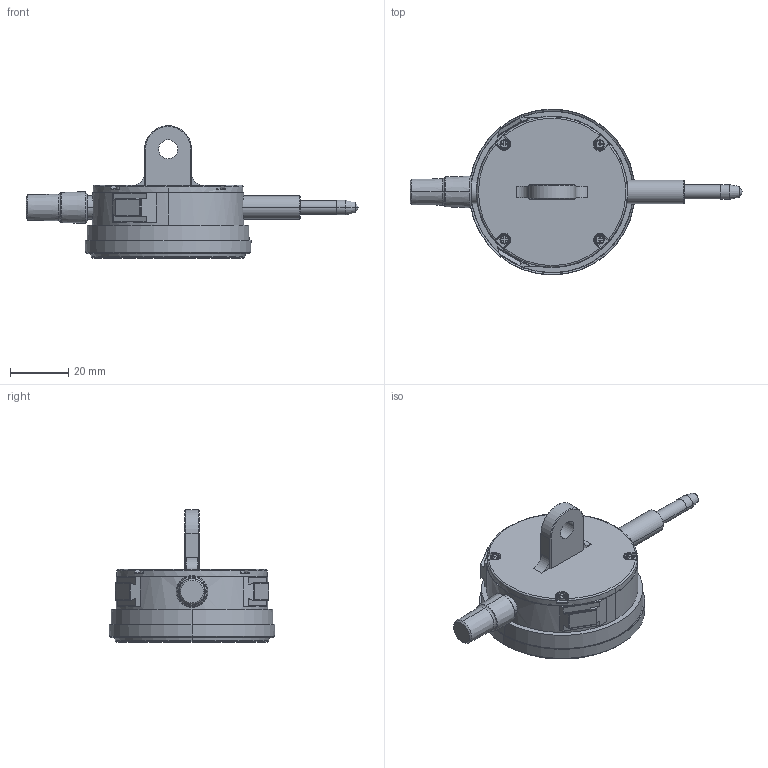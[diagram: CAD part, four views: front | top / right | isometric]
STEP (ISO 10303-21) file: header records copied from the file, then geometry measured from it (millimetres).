
FILE_DESCRIPTION(('Creo Elements/Direct Modeling STEP Export'),'2;1');
FILE_NAME('2310S-10.stp','2020-03-23T10:50:46',(''),(''),'Creo Elements/Direct Modeling STEP processor for AP214 (Solid Model)','Creo Elements/Direct Modeling 18.1I 13-Aug-2016 (C) Parametric Technology GmbH','');
FILE_SCHEMA(('AUTOMOTIVE_DESIGN { 1 0 10303 214 1 1 1 1 }'));
Length unit declared in the file: millimetre
Products named in the file (2): 2310S-10
Assembly tree (1 placements, depth 2):
  2310S-10
    2310S-10
Bounding box: 114 x 56.99 x 45.53 mm (x, y, z)
Volume: 61079.3 mm3; surface area: 11814.4 mm2
Topology: 1 solids, 1 shells, 297 faces, 724 edges, 447 vertices
Faces by surface type: plane 127, cylinder 72, cone 34, bspline 32, torus 30, sphere 2
Entity records: 13598 total; most frequent: CARTESIAN_POINT 7063, ORIENTED_EDGE 1444, DIRECTION 1230, EDGE_CURVE 722, VERTEX_POINT 447, AXIS2_PLACEMENT_3D 426, VECTOR 378, LINE 378
